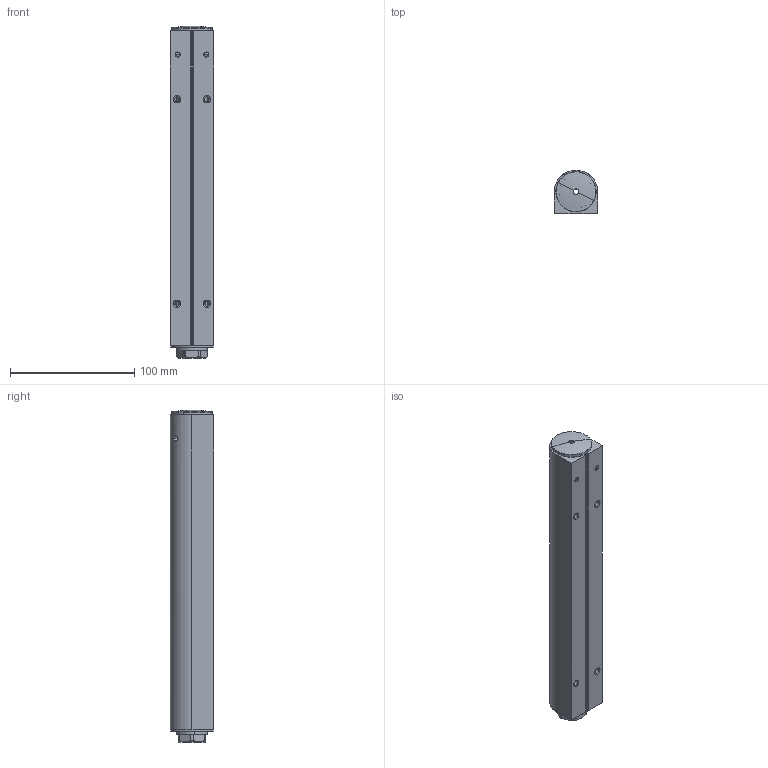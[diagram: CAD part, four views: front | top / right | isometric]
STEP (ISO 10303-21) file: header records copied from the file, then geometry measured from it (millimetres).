
FILE_DESCRIPTION (( 'STEP AP203' ), '1' );
FILE_NAME ('CBX15.STEP', '2014-02-06T20:44:03', ( '' ), ( '' ), 'SwSTEP 2.0', 'SolidWorks 2013', '' );
FILE_SCHEMA (( 'CONFIG_CONTROL_DESIGN' ));
Length unit declared in the file: millimetre
Products named in the file (1): CBX15
Bounding box: 35 x 35 x 267.65 mm (x, y, z)
Volume: 180684.1 mm3; surface area: 129016.5 mm2
Topology: 7 solids, 15 shells, 898 faces, 2413 edges, 1579 vertices
Faces by surface type: plane 326, cylinder 264, bspline 206, cone 62, torus 32, sphere 8
Entity records: 38904 total; most frequent: CARTESIAN_POINT 18633, ORIENTED_EDGE 4826, DIRECTION 3321, EDGE_CURVE 2413, VERTEX_POINT 1579, AXIS2_PLACEMENT_3D 1284, EDGE_LOOP 962, B_SPLINE_CURVE_WITH_KNOTS 922
